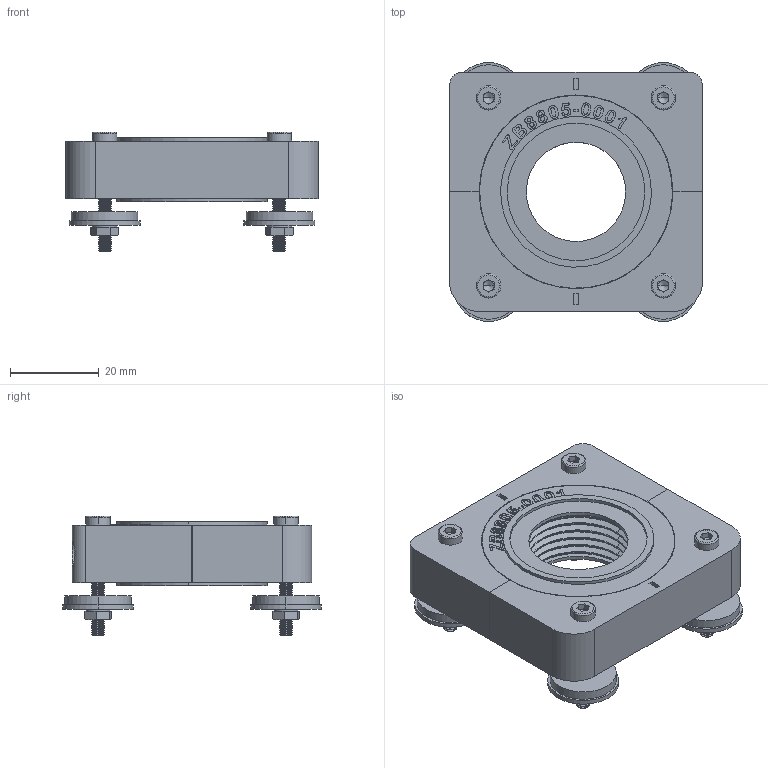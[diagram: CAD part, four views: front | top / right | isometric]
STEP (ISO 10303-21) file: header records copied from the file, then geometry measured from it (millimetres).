
FILE_DESCRIPTION (( 'STEP AP203' ), '1' );
FILE_NAME ('ZB8805-0001_A_3D 27.02.2024.STEP', '2024-04-10T12:18:53', ( '' ), ( '' ), 'SwSTEP 2.0', 'SolidWorks 2023', '' );
FILE_SCHEMA (( 'CONFIG_CONTROL_DESIGN' ));
Length unit declared in the file: millimetre
Products named in the file (9): SHB-EPDM2-A2-D16MM-F.SHR4,2; SonicLok-RB M3 (KerbKonus); FS10206-202_A_3D 27.02.2024; ISO - 4032 - M3 - W - N_ISO - 4032 - M3 - W - N; Schraube M3 x 30 - 18S_EN ISO 4762 M3 x 20 - 18S; ZB8805-0001_A_3D 27.02.2024; Schraube M3 x 25 - 18S_EN ISO 4762 M3 x 20 - 18S; FS10206-204_NC_3D 27.01.2023; FS10206-200_A_3D 27.02.2024
Assembly tree (19 placements, depth 2):
  ZB8805-0001_A_3D 27.02.2024
    FS10206-200_A_3D 27.02.2024
    FS10206-202_A_3D 27.02.2024
    FS10206-204_NC_3D 27.01.2023
    SonicLok-RB M3 (KerbKonus)  x2
    Schraube M3 x 30 - 18S_EN ISO 4762 M3 x 20 - 18S  x2
    Schraube M3 x 25 - 18S_EN ISO 4762 M3 x 20 - 18S  x4
    SHB-EPDM2-A2-D16MM-F.SHR4,2  x4
    ISO - 4032 - M3 - W - N_ISO - 4032 - M3 - W - N  x4
Bounding box: 57 x 58.4 x 27 mm (x, y, z)
Volume: 36719.9 mm3; surface area: 22119 mm2
Topology: 19 solids, 19 shells, 2167 faces, 5467 edges, 3408 vertices
Faces by surface type: cone 982, cylinder 608, plane 364, bspline 151, torus 62
Entity records: 38858 total; most frequent: CARTESIAN_POINT 12833, ORIENTED_EDGE 5206, DIRECTION 5193, EDGE_CURVE 2603, AXIS2_PLACEMENT_3D 2000, VERTEX_POINT 1644, VECTOR 1193, LINE 1193
